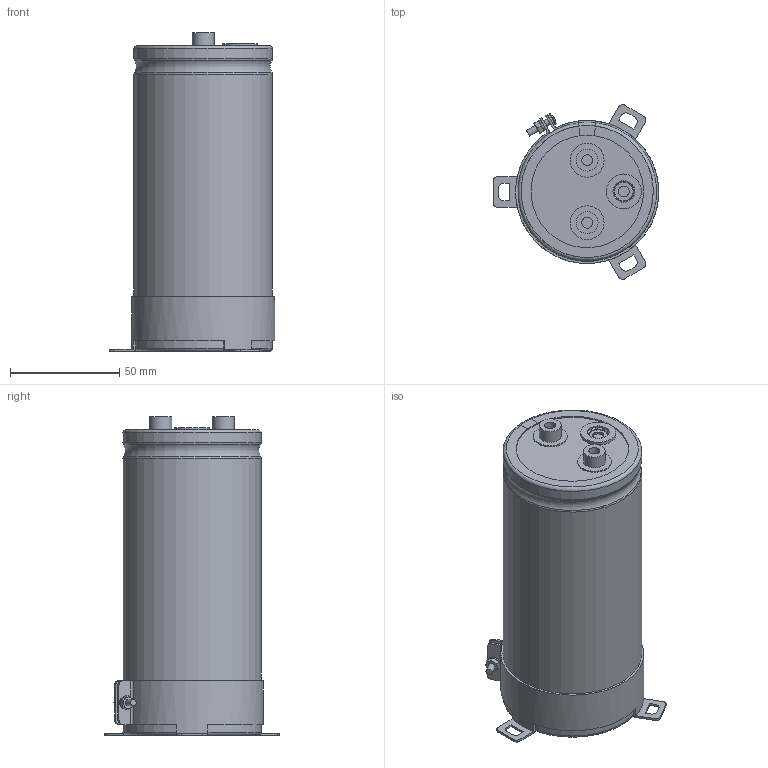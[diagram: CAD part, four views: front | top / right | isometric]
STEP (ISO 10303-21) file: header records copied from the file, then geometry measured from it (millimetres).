
FILE_DESCRIPTION(/* description */ (''),/* implementation_level */ '2;1');
FILE_NAME(/* name */ '63.5x140_Screw.stp',/* time_stamp */ '2017-09-15T19:43:27+09:00',/* author */ (''),/* organization */ (''),/* preprocessor_version */ 'ST-DEVELOPER v16',/* originating_system */ 'SIEMENS PLM Software NX 11.0',/* authorisation */ '');
FILE_SCHEMA (('AUTOMOTIVE_DESIGN { 1 0 10303 214 3 1 1 1 }'));
Length unit declared in the file: millimetre
Products named in the file (1): 63.5x140_Screw
Bounding box: 75.75 x 80.01 x 146 mm (x, y, z)
Volume: 445612 mm3; surface area: 104603 mm2
Topology: 9 solids, 9 shells, 259 faces, 644 edges, 415 vertices
Faces by surface type: plane 112, cylinder 66, torus 49, cone 31, sphere 1
Full cylindrical faces by diameter (mm): 3 x5, 5 x6, 5.5 x2, 10 x4, 15.5 x2, 16 x1, 62.3 x2
Entity records: 8411 total; most frequent: CARTESIAN_POINT 2059, DIRECTION 1296, ORIENTED_EDGE 1214, EDGE_CURVE 607, AXIS2_PLACEMENT_3D 541, VERTEX_POINT 408, EDGE_LOOP 317, CIRCLE 281
